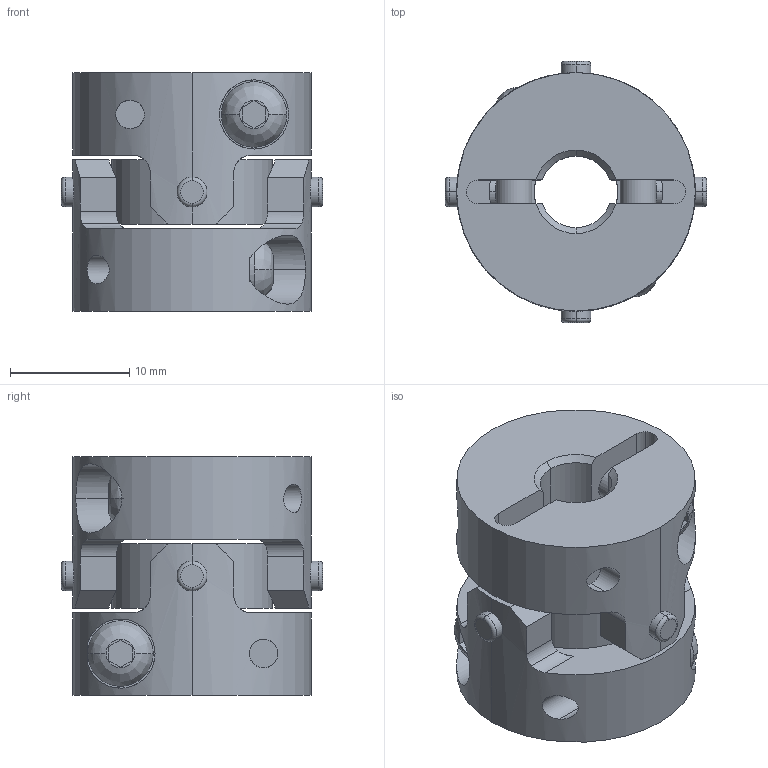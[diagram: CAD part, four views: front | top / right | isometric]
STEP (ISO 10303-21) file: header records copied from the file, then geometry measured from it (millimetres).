
FILE_DESCRIPTION((''),'2;1');
FILE_NAME('UA-20C-6×7.stp','2013-05-16T09:09:36',(''),(''),'AutoCAD STEP 2000i','AutoCAD 2000i',', , ');
FILE_SCHEMA(('CONFIG_CONTROL_DESIGN'));
Length unit declared in the file: millimetre
Products named in the file (7): UA-20C-4×7; 忣兜1; UA-2002-D07; BTN-M3; UA-2002-D04-1; UA-2002-D04; UA20-SEN
Assembly tree (8 placements, depth 3):
  UA-20C-4×7
    忣兜1
    UA-2002-D07
      BTN-M3
    UA-2002-D04-1
      BTN-M3
    UA-2002-D04
      BTN-M3
    UA20-SEN
Bounding box: 21.89 x 21.89 x 20 mm (x, y, z)
Volume: 4396.1 mm3; surface area: 3843.3 mm2
Topology: 1 solids, 1 shells, 206 faces, 554 edges, 364 vertices
Faces by surface type: cylinder 96, plane 78, cone 16, bspline 8, torus 8
Entity records: 8025 total; most frequent: CARTESIAN_POINT 2689, ORIENTED_EDGE 1108, DIRECTION 1068, EDGE_CURVE 554, AXIS2_PLACEMENT_3D 411, VERTEX_POINT 364, VECTOR 246, LINE 246
